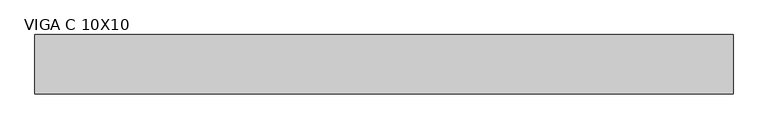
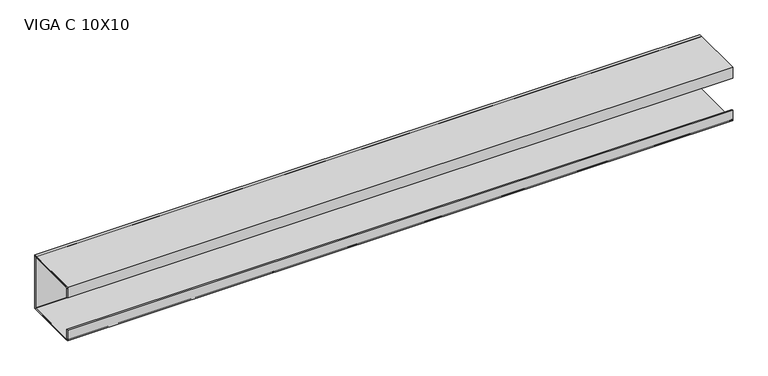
"""IFC4 building model written with IfcOpenShell, lengths in millimetres: beam geometry, VIGA PERFIL C AÇO : VIGA C 10X10."""

from ifc_helpers import new_model, si_unit, point, frame, frame_2d, origin, place, context, project, spatial, polyline, circle_curve, trimmed, segment, composite_curve, outline, extrude, source, transform, mapped, element, save


def viga_c_10x10_a6dcdae2(model_context):
    return source(origin(), model_context, "Body", "SweptSolid", [
        extrude(outline(polyline([(9.2, -50.0), (-90.8, -50.0), (-90.8, -30.0), (-88.9, -30.0), (-88.9, -48.1), (7.3, -48.1), (7.3, 48.1), (-88.9, 48.1), (-88.9, 30.0), (-90.8, 30.0), (-90.8, 50.0), (9.2, 50.0), (9.2, -50.0)])), frame((-619.0, 0.0, 0.0), z_axis=(1.0, 0.0, 0.0), x_axis=(0.0, 1.0, 0.0)), (0.0, 0.0, 1.0), 1176.0),
        extrude(outline(composite_curve([segment(trimmed(circle_curve(frame_2d((5.4, -46.2)), 3.8), [point((9.2, -46.2))], [point((5.4, -50.0))], False, "CARTESIAN"), True, "CONTINUOUS"), segment(polyline([(5.4, -50.0), (-87.0, -50.0)]), True, "CONTINUOUS"), segment(trimmed(circle_curve(frame_2d((-87.0, -46.2)), 3.8), [point((-87.0, -50.0))], [point((-90.8, -46.2))], False, "CARTESIAN"), True, "CONTINUOUS"), segment(polyline([(-90.8, -46.2), (-90.8, -30.0), (-88.9, -30.0), (-88.9, -46.2)]), True, "CONTINUOUS"), segment(trimmed(circle_curve(frame_2d((-87.0, -46.2)), 1.9), [point((-88.9, -46.2))], [point((-87.0, -48.1))], True, "CARTESIAN"), True, "CONTINUOUS"), segment(polyline([(-87.0, -48.1), (5.4, -48.1)]), True, "CONTINUOUS"), segment(trimmed(circle_curve(frame_2d((5.4, -46.2)), 1.9), [point((5.4, -48.1))], [point((7.3, -46.2))], True, "CARTESIAN"), True, "CONTINUOUS"), segment(polyline([(7.3, -46.2), (7.3, 46.2)]), True, "CONTINUOUS"), segment(trimmed(circle_curve(frame_2d((5.4, 46.2)), 1.9), [point((7.3, 46.2))], [point((5.4, 48.1))], True, "CARTESIAN"), True, "CONTINUOUS"), segment(polyline([(5.4, 48.1), (-87.0, 48.1)]), True, "CONTINUOUS"), segment(trimmed(circle_curve(frame_2d((-87.0, 46.2)), 1.9), [point((-87.0, 48.1))], [point((-88.9, 46.2))], True, "CARTESIAN"), True, "CONTINUOUS"), segment(polyline([(-88.9, 46.2), (-88.9, 30.0), (-90.8, 30.0), (-90.8, 46.2)]), True, "CONTINUOUS"), segment(trimmed(circle_curve(frame_2d((-87.0, 46.2)), 3.8), [point((-90.8, 46.2))], [point((-87.0, 50.0))], False, "CARTESIAN"), True, "CONTINUOUS"), segment(polyline([(-87.0, 50.0), (5.4, 50.0)]), True, "CONTINUOUS"), segment(trimmed(circle_curve(frame_2d((5.4, 46.2)), 3.8), [point((5.4, 50.0))], [point((9.2, 46.2))], False, "CARTESIAN"), True, "CONTINUOUS"), segment(polyline([(9.2, 46.2), (9.2, -46.2)]), True, "CONTINUOUS")], self_intersect=False)), frame((-619.0, 0.0, 0.0), z_axis=(1.0, 0.0, 0.0), x_axis=(0.0, 1.0, 0.0)), (0.0, 0.0, 1.0), 1176.0),
    ])


if __name__ == "__main__":
    model = new_model("IFC4")
    model_context = context("Model", 3, world=origin())
    ifc_project = project(units=[si_unit("LENGTHUNIT", "METRE", prefix="MILLI")], contexts=[model_context])
    site = spatial("IfcSite", under=ifc_project)
    building = spatial("IfcBuilding", under=site)
    placement = place(None, origin())
    viga_c_10x10_shape = viga_c_10x10_a6dcdae2(model_context)
    element("IfcBeam", 1, ObjectType="VIGA PERFIL C AÇO : VIGA C 10X10", at=placement, inside=building, context=model_context, shape_type="MappedRepresentation", body=[
        mapped(viga_c_10x10_shape, transform((0.0, 0.0, 0.0), x_axis=(1.0, 0.0, 0.0), y_axis=(0.0, 1.0, 0.0), z_axis=(0.0, 0.0, 1.0))),
    ])
    save(model, "model.ifc")
